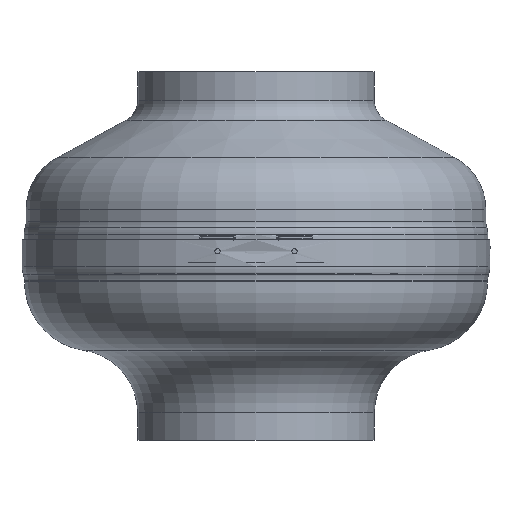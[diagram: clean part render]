
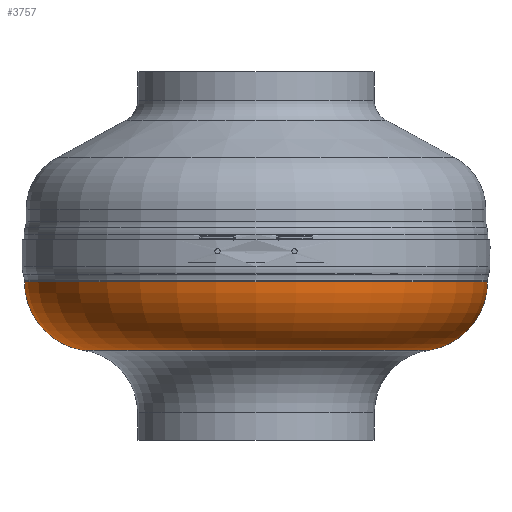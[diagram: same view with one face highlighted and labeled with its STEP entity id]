
A CAD part, front view. The second image highlights one B-rep face of the part: STEP entity #3757.
In plain terms, the highlighted toroidal (fillet/blend) face has major radius 85 mm and minor radius 36.226 mm.
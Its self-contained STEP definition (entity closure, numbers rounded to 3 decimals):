
#298 = CIRCLE ( 'NONE', #3244, 90.233 ) ;
#721 = VERTEX_POINT ( 'NONE', #5617 ) ;
#907 = ORIENTED_EDGE ( 'NONE', *, *, #6696, .F. ) ;
#1001 = CARTESIAN_POINT ( 'NONE',  ( 0., 0., -45.846 ) ) ;
#1051 = EDGE_CURVE ( 'NONE', #3392, #4744, #298, .T. ) ;
#1243 = DIRECTION ( 'NONE',  ( -1., 0., 0. ) ) ;
#1322 = CARTESIAN_POINT ( 'NONE',  ( 85., 0., -10. ) ) ;
#1495 = CARTESIAN_POINT ( 'NONE',  ( -85., 0., -10. ) ) ;
#1739 = DIRECTION ( 'NONE',  ( 0., 0., 1. ) ) ;
#2023 = DIRECTION ( 'NONE',  ( 0., 0., 1. ) ) ;
#2065 = DIRECTION ( 'NONE',  ( 0., 0., 1. ) ) ;
#2446 = DIRECTION ( 'NONE',  ( -1., 0., 0. ) ) ;
#2561 = CIRCLE ( 'NONE', #7460, 121.226 ) ;
#2618 = EDGE_CURVE ( 'NONE', #721, #6724, #2561, .T. ) ;
#3244 = AXIS2_PLACEMENT_3D ( 'NONE', #1001, #1739, #2446 ) ;
#3392 = VERTEX_POINT ( 'NONE', #6391 ) ;
#3709 = DIRECTION ( 'NONE',  ( 0., 0., 1. ) ) ;
#3757 = ADVANCED_FACE ( 'NONE', ( #8519 ), #5660, .T. ) ;
#3993 = AXIS2_PLACEMENT_3D ( 'NONE', #6458, #3709, #5723 ) ;
#4005 = DIRECTION ( 'NONE',  ( 0., -1., 0. ) ) ;
#4029 = AXIS2_PLACEMENT_3D ( 'NONE', #1322, #4005, #7671 ) ;
#4181 = DIRECTION ( 'NONE',  ( 0., 1., 0. ) ) ;
#4576 = CARTESIAN_POINT ( 'NONE',  ( 0., 0., -10.036 ) ) ;
#4744 = VERTEX_POINT ( 'NONE', #5901 ) ;
#5125 = ORIENTED_EDGE ( 'NONE', *, *, #1051, .T. ) ;
#5561 = ORIENTED_EDGE ( 'NONE', *, *, #7282, .T. ) ;
#5617 = CARTESIAN_POINT ( 'NONE',  ( -121.226, 0., -10.036 ) ) ;
#5660 = TOROIDAL_SURFACE ( 'NONE', #3993, 85., 36.226 ) ;
#5723 = DIRECTION ( 'NONE',  ( -1., 0., 0. ) ) ;
#5831 = CIRCLE ( 'NONE', #7365, 36.226 ) ;
#5901 = CARTESIAN_POINT ( 'NONE',  ( 90.233, 0., -45.846 ) ) ;
#6349 = CARTESIAN_POINT ( 'NONE',  ( 121.226, 0., -10.036 ) ) ;
#6369 = ORIENTED_EDGE ( 'NONE', *, *, #2618, .F. ) ;
#6391 = CARTESIAN_POINT ( 'NONE',  ( -90.233, 0., -45.846 ) ) ;
#6458 = CARTESIAN_POINT ( 'NONE',  ( 0., 0., -10. ) ) ;
#6696 = EDGE_CURVE ( 'NONE', #3392, #721, #5831, .T. ) ;
#6724 = VERTEX_POINT ( 'NONE', #6349 ) ;
#7076 = CIRCLE ( 'NONE', #4029, 36.226 ) ;
#7152 = EDGE_LOOP ( 'NONE', ( #5125, #5561, #6369, #907 ) ) ;
#7282 = EDGE_CURVE ( 'NONE', #4744, #6724, #7076, .T. ) ;
#7365 = AXIS2_PLACEMENT_3D ( 'NONE', #1495, #4181, #2065 ) ;
#7460 = AXIS2_PLACEMENT_3D ( 'NONE', #4576, #2023, #1243 ) ;
#7671 = DIRECTION ( 'NONE',  ( 1., 0., 0. ) ) ;
#8519 = FACE_OUTER_BOUND ( 'NONE', #7152, .T. ) ;
